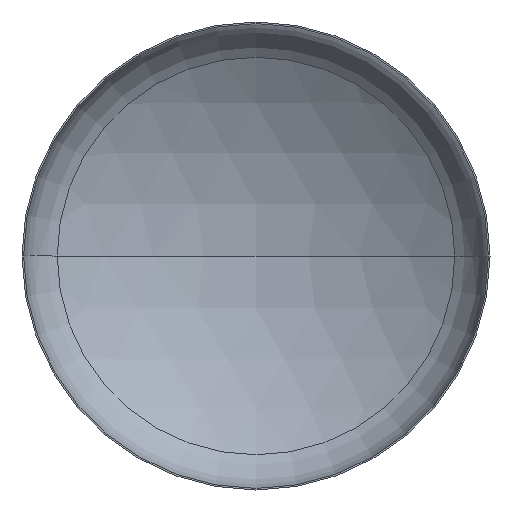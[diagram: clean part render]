
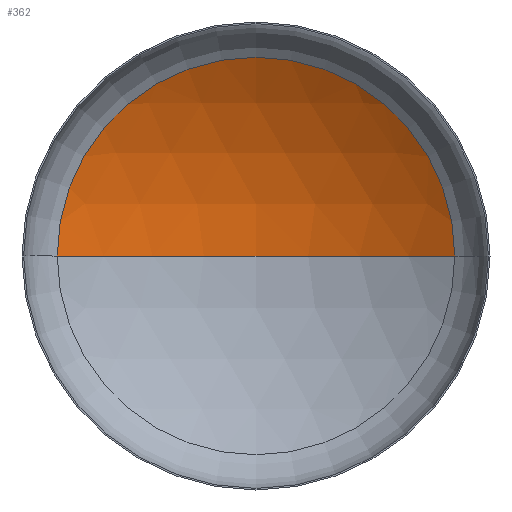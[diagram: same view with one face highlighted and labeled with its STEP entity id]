
A CAD part, front view. The second image highlights one B-rep face of the part: STEP entity #362.
In plain terms, the highlighted spherical face has radius 1200 mm.
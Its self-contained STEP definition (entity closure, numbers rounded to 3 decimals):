
#1 = CIRCLE ( 'NONE', #15, 1200. ) ;
#14 = EDGE_LOOP ( 'NONE', ( #151, #105, #96 ) ) ;
#15 = AXIS2_PLACEMENT_3D ( 'NONE', #314, #176, #268 ) ;
#25 = AXIS2_PLACEMENT_3D ( 'NONE', #329, #265, #195 ) ;
#26 = VERTEX_POINT ( 'NONE', #363 ) ;
#39 = AXIS2_PLACEMENT_3D ( 'NONE', #243, #244, #148 ) ;
#40 = AXIS2_PLACEMENT_3D ( 'NONE', #386, #185, #170 ) ;
#54 = SPHERICAL_SURFACE ( 'NONE', #25, 1200. ) ;
#80 = VERTEX_POINT ( 'NONE', #258 ) ;
#96 = ORIENTED_EDGE ( 'NONE', *, *, #341, .T. ) ;
#102 = CIRCLE ( 'NONE', #39, 1200. ) ;
#105 = ORIENTED_EDGE ( 'NONE', *, *, #345, .T. ) ;
#133 = VERTEX_POINT ( 'NONE', #191 ) ;
#148 = DIRECTION ( 'NONE',  ( -1., 0., 0. ) ) ;
#151 = ORIENTED_EDGE ( 'NONE', *, *, #391, .F. ) ;
#170 = DIRECTION ( 'NONE',  ( 1., 0., 0. ) ) ;
#176 = DIRECTION ( 'NONE',  ( 0., 0., 1. ) ) ;
#185 = DIRECTION ( 'NONE',  ( 0., -1., 0. ) ) ;
#191 = CARTESIAN_POINT ( 'NONE',  ( 0., 398.005, 0. ) ) ;
#195 = DIRECTION ( 'NONE',  ( -1., 0., 0. ) ) ;
#197 = CIRCLE ( 'NONE', #40, 637.113 ) ;
#243 = CARTESIAN_POINT ( 'NONE',  ( 0., -801.995, 0. ) ) ;
#244 = DIRECTION ( 'NONE',  ( 0., 0., -1. ) ) ;
#256 = FACE_OUTER_BOUND ( 'NONE', #14, .T. ) ;
#258 = CARTESIAN_POINT ( 'NONE',  ( -637.113, 214.906, 0. ) ) ;
#265 = DIRECTION ( 'NONE',  ( 0., 0., -1. ) ) ;
#268 = DIRECTION ( 'NONE',  ( 1., 0., 0. ) ) ;
#314 = CARTESIAN_POINT ( 'NONE',  ( 0., -801.995, 0. ) ) ;
#329 = CARTESIAN_POINT ( 'NONE',  ( 0., -801.995, 0. ) ) ;
#341 = EDGE_CURVE ( 'NONE', #26, #80, #197, .T. ) ;
#345 = EDGE_CURVE ( 'NONE', #133, #26, #102, .T. ) ;
#362 = ADVANCED_FACE ( 'NONE', ( #256 ), #54, .F. ) ;
#363 = CARTESIAN_POINT ( 'NONE',  ( 637.113, 214.906, 0. ) ) ;
#386 = CARTESIAN_POINT ( 'NONE',  ( 0., 214.906, 0. ) ) ;
#391 = EDGE_CURVE ( 'NONE', #133, #80, #1, .T. ) ;
